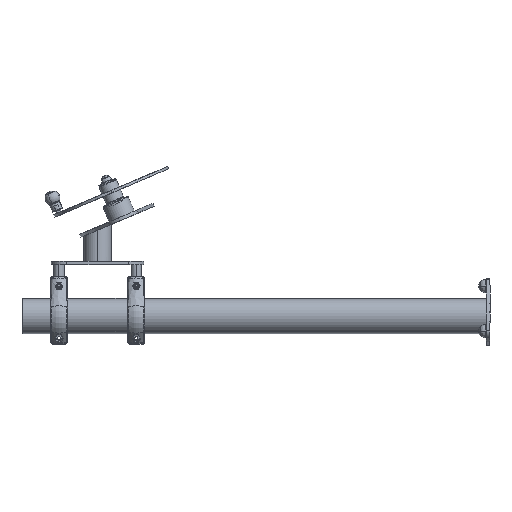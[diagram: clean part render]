
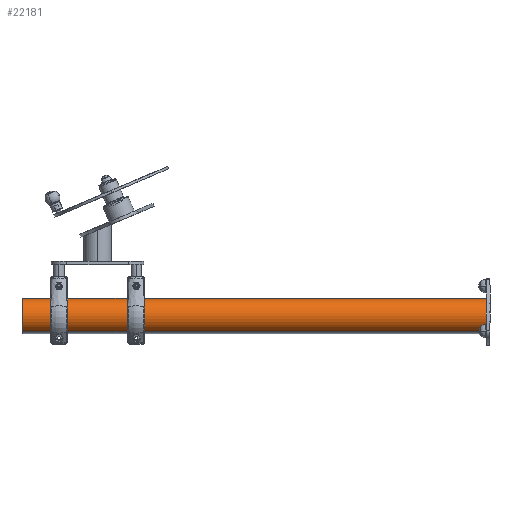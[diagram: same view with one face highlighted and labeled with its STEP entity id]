
A CAD part, left-side view. The second image highlights one B-rep face of the part: STEP entity #22181.
In plain terms, the highlighted cylindrical face has radius 57.15 mm (diameter 114.3 mm), a partial arc.
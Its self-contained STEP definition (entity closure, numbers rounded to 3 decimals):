
#410 = DIRECTION ( 'NONE',  ( 0., 1., 0. ) ) ;
#966 = CARTESIAN_POINT ( 'NONE',  ( 28.575, 241.77, -117.507 ) ) ;
#1371 = CARTESIAN_POINT ( 'NONE',  ( 0., 241.77, -167. ) ) ;
#1917 = VERTEX_POINT ( 'NONE', #3085 ) ;
#2233 = EDGE_CURVE ( 'NONE', #27050, #16852, #33679, .T. ) ;
#3085 = CARTESIAN_POINT ( 'NONE',  ( 28.575, -1258.23, -117.507 ) ) ;
#5015 = CIRCLE ( 'NONE', #11822, 57.15 ) ;
#5308 = EDGE_CURVE ( 'NONE', #1917, #27050, #5015, .T. ) ;
#5861 = DIRECTION ( 'NONE',  ( 0., 1., 0. ) ) ;
#6366 = CARTESIAN_POINT ( 'NONE',  ( 28.575, -1258.23, -117.507 ) ) ;
#7056 = CARTESIAN_POINT ( 'NONE',  ( -28.575, -1258.23, -216.493 ) ) ;
#7478 = EDGE_CURVE ( 'NONE', #29316, #16852, #11028, .T. ) ;
#7694 = CARTESIAN_POINT ( 'NONE',  ( -28.575, 241.77, -216.493 ) ) ;
#8528 = FACE_OUTER_BOUND ( 'NONE', #32316, .T. ) ;
#11028 = CIRCLE ( 'NONE', #29724, 57.15 ) ;
#11599 = ORIENTED_EDGE ( 'NONE', *, *, #7478, .T. ) ;
#11822 = AXIS2_PLACEMENT_3D ( 'NONE', #34644, #18814, #32503 ) ;
#11871 = DIRECTION ( 'NONE',  ( 0., 1., 0. ) ) ;
#12250 = DIRECTION ( 'NONE',  ( 0., -1., 0. ) ) ;
#13625 = ORIENTED_EDGE ( 'NONE', *, *, #2233, .F. ) ;
#14665 = CARTESIAN_POINT ( 'NONE',  ( -28.575, -1258.23, -216.493 ) ) ;
#16696 = CARTESIAN_POINT ( 'NONE',  ( 0., -1258.23, -167. ) ) ;
#16852 = VERTEX_POINT ( 'NONE', #7694 ) ;
#18814 = DIRECTION ( 'NONE',  ( 0., -1., 0. ) ) ;
#19241 = AXIS2_PLACEMENT_3D ( 'NONE', #16696, #5861, #30008 ) ;
#19315 = ORIENTED_EDGE ( 'NONE', *, *, #5308, .F. ) ;
#22181 = ADVANCED_FACE ( 'NONE', ( #8528 ), #30193, .T. ) ;
#25185 = ORIENTED_EDGE ( 'NONE', *, *, #34206, .T. ) ;
#26456 = VECTOR ( 'NONE', #410, 1000. ) ;
#27050 = VERTEX_POINT ( 'NONE', #7056 ) ;
#29316 = VERTEX_POINT ( 'NONE', #966 ) ;
#29612 = VECTOR ( 'NONE', #11871, 1000. ) ;
#29724 = AXIS2_PLACEMENT_3D ( 'NONE', #1371, #12250, #33919 ) ;
#29994 = LINE ( 'NONE', #6366, #29612 ) ;
#30008 = DIRECTION ( 'NONE',  ( -0.5, 0., -0.866 ) ) ;
#30193 = CYLINDRICAL_SURFACE ( 'NONE', #19241, 57.15 ) ;
#32316 = EDGE_LOOP ( 'NONE', ( #19315, #25185, #11599, #13625 ) ) ;
#32503 = DIRECTION ( 'NONE',  ( 0.5, 0., 0.866 ) ) ;
#33679 = LINE ( 'NONE', #14665, #26456 ) ;
#33919 = DIRECTION ( 'NONE',  ( 0.5, 0., 0.866 ) ) ;
#34206 = EDGE_CURVE ( 'NONE', #1917, #29316, #29994, .T. ) ;
#34644 = CARTESIAN_POINT ( 'NONE',  ( 0., -1258.23, -167. ) ) ;
